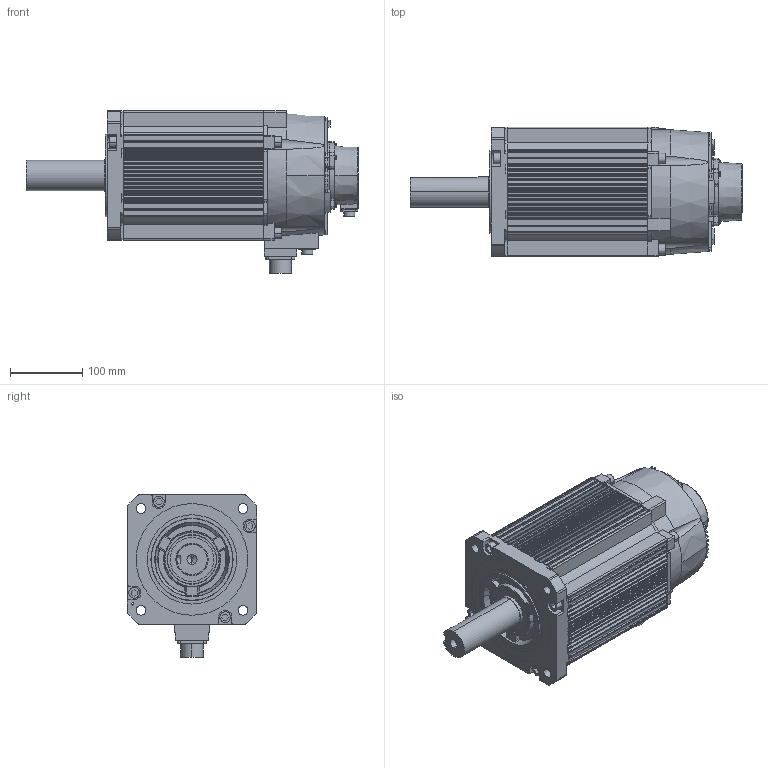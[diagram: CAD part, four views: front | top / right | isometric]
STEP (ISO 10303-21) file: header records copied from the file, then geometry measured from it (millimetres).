
FILE_DESCRIPTION (( 'STEP AP203' ), '1' );
FILE_NAME ('48015.STEP', '2024-09-05T10:59:34', ( '' ), ( '' ), 'SwSTEP 2.0', 'SolidWorks 2018', '' );
FILE_SCHEMA (( 'CONFIG_CONTROL_DESIGN' ));
Length unit declared in the file: millimetre
Products named in the file (10): 48015; SC-CMV1-R10P-E; 橈勤硉晤鎢ん誘欶  S13E.10-01; 35ㄛ48NM堤粣; 48N.M儂褲 - 萵掛 (4) - 萵掛; 蚐猾; SC-CMV1-R2P-E; 惕掅綴裔; CMS3102A22-22P-Z; ヶ裔
Assembly tree (9 placements, depth 2):
  48015
    CMS3102A22-22P-Z
    SC-CMV1-R10P-E
    SC-CMV1-R2P-E
    惕掅綴裔
    ヶ裔
    蚐猾
    35ㄛ48NM堤粣
    48N.M儂褲 - 萵掛 (4) - 萵掛
    橈勤硉晤鎢ん誘欶  S13E.10-01
Bounding box: 461 x 180 x 226 mm (x, y, z)
Volume: 2970157.4 mm3; surface area: 740971.1 mm2
Topology: 9 solids, 13 shells, 1844 faces, 5033 edges, 3262 vertices
Faces by surface type: plane 895, cylinder 804, cone 60, torus 59, bspline 14, sphere 12
Entity records: 60865 total; most frequent: CARTESIAN_POINT 11912, DIRECTION 10429, ORIENTED_EDGE 9930, EDGE_CURVE 4965, AXIS2_PLACEMENT_3D 3753, VERTEX_POINT 3250, VECTOR 2923, LINE 2923
